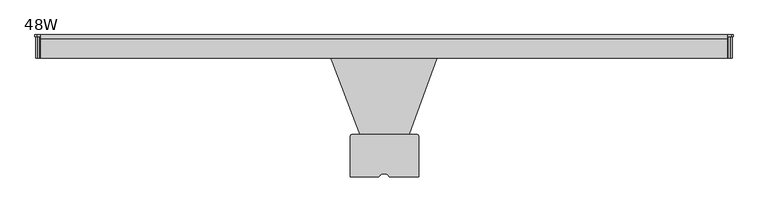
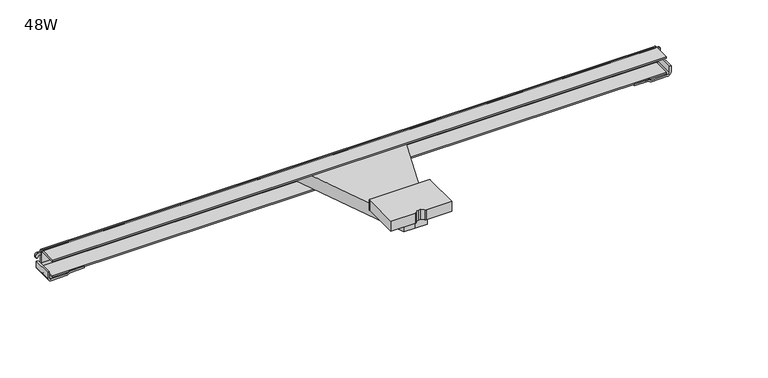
"""IFC4 building model written with IfcOpenShell, lengths in millimetres: furniture geometry, Steelcase Turnstone - Bivi - Accessories - Monitor Arm Table Mount : 48W."""

from ifc_helpers import new_model, si_unit, point, frame, frame_2d, origin, place, context, project, spatial, polyline, circle_curve, trimmed, segment, composite_curve, outline, extrude, source, transform, mapped, element, save


def furniture_48w_90511896(model_context):
    return source(origin(), model_context, "Body", "SweptSolid", [
        extrude(outline(composite_curve([segment(trimmed(circle_curve(frame_2d((159.9850492, -269.8839501)), 2.257898), [point((159.9850492, -267.6260521))], [point((162.2429472, -269.8838873))], False, "CARTESIAN"), True, "CONTINUOUS"), segment(polyline([(162.2429472, -269.8838873), (162.2429472, -336.626034), (115.7071375, -336.626034)]), True, "CONTINUOUS"), segment(trimmed(circle_curve(frame_2d((115.7071375, -334.3756531)), 2.2503809), [point((115.7071375, -336.626034))], [point((113.6913493, -335.3760591))], False, "CARTESIAN"), True, "CONTINUOUS"), segment(trimmed(circle_curve(frame_2d((107.6120183, -338.3931418)), 6.7868295), [point((113.6913493, -335.3760591))], [point((108.1291888, -331.6260458))], True, "CARTESIAN"), True, "CONTINUOUS"), segment(trimmed(circle_curve(frame_2d((106.0453771, -358.8923961)), 27.3458613), [point((108.1291888, -331.6260458))], [point((103.9615653, -331.6260458))], True, "CARTESIAN"), True, "CONTINUOUS"), segment(trimmed(circle_curve(frame_2d((104.4791205, -338.3981738)), 6.7918762), [point((103.9615653, -331.6260458))], [point((99.5126263, -333.7653003))], True, "CARTESIAN"), True, "CONTINUOUS"), segment(trimmed(circle_curve(frame_2d((104.4791205, -338.3981738)), 6.7918762), [point((99.5126263, -333.7653003))], [point((98.3973037, -335.3747509))], True, "CARTESIAN"), True, "CONTINUOUS"), segment(trimmed(circle_curve(frame_2d((96.3769126, -334.3703641)), 2.2562741), [point((98.3973037, -335.3747509))], [point((96.429124, -336.626034))], False, "CARTESIAN"), True, "CONTINUOUS"), segment(polyline([(96.429124, -336.626034), (51.4398681, -336.626034), (51.4398681, -269.8377216)]), True, "CONTINUOUS"), segment(trimmed(circle_curve(frame_2d((53.6515376, -269.8377216)), 2.2116695), [point((51.4398681, -269.8377216))], [point((53.6515376, -267.6260521))], False, "CARTESIAN"), True, "CONTINUOUS"), segment(polyline([(53.6515376, -267.6260521), (159.9850492, -267.6260521)]), True, "CONTINUOUS")], self_intersect=False)), frame((0.0, 0.0, 691.6834103), z_axis=(0.0, 0.0, 1.0), x_axis=(1.0, 0.0, 0.0)), (0.0, 0.0, 1.0), 19.3004151),
        extrude(outline(polyline([(128.3372341, -317.6260494), (106.045569, -317.6260494), (86.0600715, -317.6260494), (6.7352254, -107.7199906), (106.045569, -107.7199906), (204.7367915, -107.7199906), (128.3372341, -317.6260494)])), frame((0.0, 0.0, 667.38344), z_axis=(0.0, 0.0, 1.0), x_axis=(1.0, 0.0, 0.0)), (0.0, 0.0, 1.0), 24.2999702),
        extrude(outline(composite_curve([segment(polyline([(674.8332545, -458.0963634), (674.8332545, -461.136431), (663.5926927, -461.136431)]), True, "CONTINUOUS"), segment(trimmed(circle_curve(frame_2d((663.5926927, -454.3769502)), 6.7594808), [point((663.5926927, -461.136431))], [point((656.8332119, -454.3769502))], False, "CARTESIAN"), True, "CONTINUOUS"), segment(polyline([(656.8332119, -454.3769502), (656.8332119, -426.1364852)]), True, "CONTINUOUS"), segment(trimmed(circle_curve(frame_2d((662.9130886, -426.1364852)), 6.0798767), [point((656.8332119, -426.1364852))], [point((658.2556541, -422.2283904))], False, "CARTESIAN"), True, "CONTINUOUS"), segment(trimmed(circle_curve(frame_2d((650.1984046, -415.4674804)), 10.5180405), [point((658.2556541, -422.2283904))], [point((659.8731426, -419.5940551))], True, "CARTESIAN"), True, "CONTINUOUS"), segment(polyline([(659.8731426, -419.5940551), (659.8731426, -394.1940551), (662.9128796, -394.1940551), (662.9128796, -420.4067795)]), True, "CONTINUOUS"), segment(trimmed(circle_curve(frame_2d((658.7545906, -419.9825532)), 4.1798726), [point((662.9128796, -420.4067795))], [point((661.2761093, -423.3162116))], False, "CARTESIAN"), True, "CONTINUOUS"), segment(trimmed(circle_curve(frame_2d((663.4093131, -426.1364852)), 3.5361704), [point((661.2761093, -423.3162116))], [point((659.8731426, -426.1364852))], True, "CARTESIAN"), True, "CONTINUOUS"), segment(polyline([(659.8731426, -426.1364852), (659.8731426, -454.4415467)]), True, "CONTINUOUS"), segment(trimmed(circle_curve(frame_2d((663.5279593, -454.4415467)), 3.6548167), [point((659.8731426, -454.4415467))], [point((663.5279593, -458.0963634))], True, "CARTESIAN"), True, "CONTINUOUS"), segment(polyline([(663.5279593, -458.0963634), (674.8332545, -458.0963634)]), True, "CONTINUOUS")], self_intersect=False)), frame((0.0, -142.9290147, 0.0), z_axis=(0.0, 1.0, 0.0), x_axis=(0.0, 0.0, 1.0)), (0.0, 0.0, 1.0), 35.0600232),
        extrude(outline(composite_curve([segment(polyline([(674.8332545, 670.1875014), (663.5279593, 670.1875014)]), True, "CONTINUOUS"), segment(trimmed(circle_curve(frame_2d((663.5279593, 666.5326846)), 3.6548167), [point((663.5279593, 670.1875014))], [point((659.8731426, 666.5326846))], True, "CARTESIAN"), True, "CONTINUOUS"), segment(polyline([(659.8731426, 666.5326846), (659.8731426, 638.2276231)]), True, "CONTINUOUS"), segment(trimmed(circle_curve(frame_2d((663.4093131, 638.2276231)), 3.5361704), [point((659.8731426, 638.2276231))], [point((661.2761093, 635.4073495))], True, "CARTESIAN"), True, "CONTINUOUS"), segment(trimmed(circle_curve(frame_2d((658.7545906, 632.0736911)), 4.1798726), [point((661.2761093, 635.4073495))], [point((662.9128796, 632.4979175))], False, "CARTESIAN"), True, "CONTINUOUS"), segment(polyline([(662.9128796, 632.4979175), (662.9128796, 606.285193), (659.8731426, 606.285193), (659.8731426, 631.685193)]), True, "CONTINUOUS"), segment(trimmed(circle_curve(frame_2d((650.1984046, 627.5586183)), 10.5180405), [point((659.8731426, 631.685193))], [point((658.2556541, 634.3195283))], True, "CARTESIAN"), True, "CONTINUOUS"), segment(trimmed(circle_curve(frame_2d((662.9130886, 638.2276231)), 6.0798767), [point((658.2556541, 634.3195283))], [point((656.8332119, 638.2276231))], False, "CARTESIAN"), True, "CONTINUOUS"), segment(polyline([(656.8332119, 638.2276231), (656.8332119, 666.4680881)]), True, "CONTINUOUS"), segment(trimmed(circle_curve(frame_2d((663.5926927, 666.4680881)), 6.7594808), [point((656.8332119, 666.4680881))], [point((663.5926927, 673.227569))], False, "CARTESIAN"), True, "CONTINUOUS"), segment(polyline([(663.5926927, 673.227569), (674.8332545, 673.227569), (674.8332545, 670.1875014)]), True, "CONTINUOUS")], self_intersect=False)), frame((0.0, -142.9290147, 0.0), z_axis=(0.0, 1.0, 0.0), x_axis=(0.0, 0.0, 1.0)), (0.0, 0.0, 1.0), 35.0600232),
        extrude(outline(composite_curve([segment(polyline([(689.360073, 671.0776214), (689.360073, 664.7276214), (684.9088679, 664.7276214), (684.9088679, 669.2254318)]), True, "CONTINUOUS"), segment(trimmed(circle_curve(frame_2d((683.9467759, 669.2254318)), 0.962092), [point((684.9088679, 669.2254318))], [point((683.9402076, 670.1875014))], True, "CARTESIAN"), True, "CONTINUOUS"), segment(polyline([(683.9402076, 670.1875014), (682.6846117, 670.1875014)]), True, "CONTINUOUS"), segment(trimmed(circle_curve(frame_2d((682.6846117, 672.2073133)), 2.019812), [point((682.6846117, 670.1875014))], [point((682.6846117, 674.2271253))], False, "CARTESIAN"), True, "CONTINUOUS"), segment(polyline([(682.6846117, 674.2271253), (686.3728817, 674.2271253)]), True, "CONTINUOUS"), segment(trimmed(circle_curve(frame_2d((686.2061594, 671.0776214)), 3.1539136), [point((686.3728817, 674.2271253))], [point((689.360073, 671.0776214))], False, "CARTESIAN"), True, "CONTINUOUS")], self_intersect=False)), frame((0.0, -107.8816597, 0.0), z_axis=(0.0, 1.0, 0.0), x_axis=(0.0, 0.0, 1.0)), (0.0, 0.0, 1.0), 3.0328938),
        extrude(outline(composite_curve([segment(trimmed(circle_curve(frame_2d((686.2061594, -458.9864835)), 3.1539136), [point((689.360073, -458.9864835))], [point((686.3728817, -462.1359874))], False, "CARTESIAN"), True, "CONTINUOUS"), segment(polyline([(686.3728817, -462.1359874), (682.6846117, -462.1359874)]), True, "CONTINUOUS"), segment(trimmed(circle_curve(frame_2d((682.6846117, -460.1161754)), 2.019812), [point((682.6846117, -462.1359874))], [point((682.6846117, -458.0963634))], False, "CARTESIAN"), True, "CONTINUOUS"), segment(polyline([(682.6846117, -458.0963634), (683.9402076, -458.0963634)]), True, "CONTINUOUS"), segment(trimmed(circle_curve(frame_2d((683.9467759, -457.1342939)), 0.962092), [point((683.9402076, -458.0963634))], [point((684.9088679, -457.1342939))], True, "CARTESIAN"), True, "CONTINUOUS"), segment(polyline([(684.9088679, -457.1342939), (684.9088679, -452.6364835), (689.360073, -452.6364835), (689.360073, -458.9864835)]), True, "CONTINUOUS")], self_intersect=False)), frame((0.0, -107.8816597, 0.0), z_axis=(0.0, 1.0, 0.0), x_axis=(0.0, 0.0, 1.0)), (0.0, 0.0, 1.0), 3.0328938),
        extrude(outline(composite_curve([segment(polyline([(-142.9289017, 692.3731344), (-142.9289017, 695.4129307), (-110.7527955, 695.4129307)]), True, "CONTINUOUS"), segment(trimmed(circle_curve(frame_2d((-110.7527955, 689.5089011)), 5.9040296), [point((-110.7527955, 695.4129307))], [point((-104.8487659, 689.5089011))], False, "CARTESIAN"), True, "CONTINUOUS"), segment(polyline([(-104.8487659, 689.5089011), (-104.8487659, 669.2628796)]), True, "CONTINUOUS"), segment(trimmed(circle_curve(frame_2d((-111.1987659, 669.2628796)), 6.35), [point((-104.8487659, 669.2628796))], [point((-111.1987659, 662.9128796))], False, "CARTESIAN"), True, "CONTINUOUS"), segment(polyline([(-111.1987659, 662.9128796), (-142.9289017, 662.9128796), (-142.9289017, 665.7553268), (-111.1222674, 665.7553268)]), True, "CONTINUOUS"), segment(trimmed(circle_curve(frame_2d((-111.1222674, 669.1557803)), 3.4004535), [point((-111.1222674, 665.7553268))], [point((-107.7218139, 669.1557803))], True, "CARTESIAN"), True, "CONTINUOUS"), segment(polyline([(-107.7218139, 669.1557803), (-107.7218139, 688.9768169)]), True, "CONTINUOUS"), segment(trimmed(circle_curve(frame_2d((-111.1181314, 688.9768169)), 3.3963175), [point((-107.7218139, 688.9768169))], [point((-111.1181314, 692.3731344))], True, "CARTESIAN"), True, "CONTINUOUS"), segment(polyline([(-111.1181314, 692.3731344), (-142.9289017, 692.3731344)]), True, "CONTINUOUS")], self_intersect=False)), frame((-452.6368098, 0.0, 0.0), z_axis=(1.0, 0.0, 0.0), x_axis=(0.0, 1.0, 0.0)), (0.0, 0.0, 1.0), 1117.3644312),
    ])


if __name__ == "__main__":
    model = new_model("IFC4")
    model_context = context("Model", 3, world=origin())
    ifc_project = project(units=[si_unit("LENGTHUNIT", "METRE", prefix="MILLI")], contexts=[model_context])
    site = spatial("IfcSite", under=ifc_project)
    building = spatial("IfcBuilding", under=site)
    placement = place(None, origin())
    furniture_48w_shape = furniture_48w_90511896(model_context)
    element("IfcFurniture", 1, ObjectType="Steelcase Turnstone - Bivi - Accessories - Monitor Arm Table Mount : 48W", at=placement, inside=building, context=model_context, shape_type="MappedRepresentation", body=[
        mapped(furniture_48w_shape, transform((0.0, 0.0, 0.0), x_axis=(1.0, 0.0, 0.0), y_axis=(0.0, 1.0, 0.0), z_axis=(0.0, 0.0, 1.0))),
    ])
    save(model, "model.ifc")
